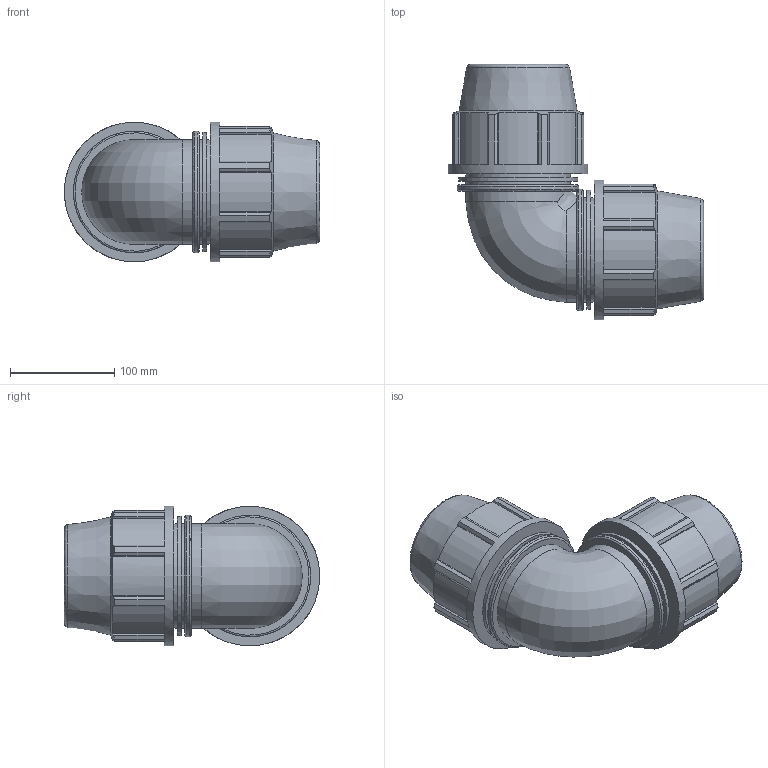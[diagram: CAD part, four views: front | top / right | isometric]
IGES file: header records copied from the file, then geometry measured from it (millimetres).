
Global section: file name: 0705060750A.ipt; native system: Autodesk Inventor 2015; preprocessor: unknown; author: KIM; date: 20180325.201208; units: millimetre
Bounding box: 245 x 245 x 134 mm (x, y, z)
Volume: 1932798.2 mm3; surface area: 247423.1 mm2
Topology: 1 solids, 1 shells, 143 faces, 393 edges, 264 vertices
Faces by surface type: plane 96, cylinder 28, revolution 14, cone 4, bspline 1
Full cylindrical faces by diameter (mm): 100.5 x4, 114.248 x2, 116.58 x2, 134 x2
